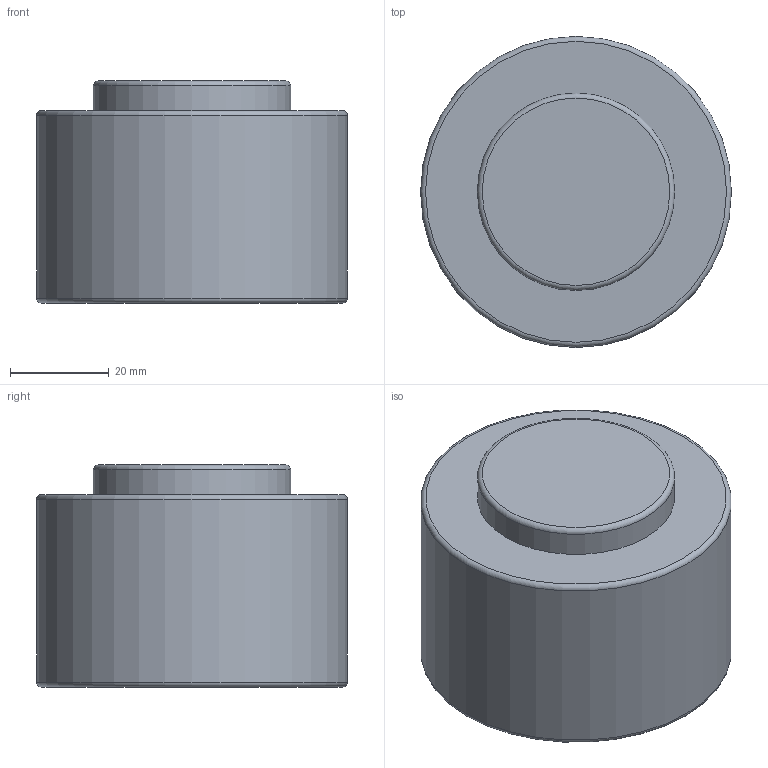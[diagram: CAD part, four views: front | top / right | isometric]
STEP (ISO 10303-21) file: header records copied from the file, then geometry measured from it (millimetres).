
FILE_DESCRIPTION(/* description */ (''),/* implementation_level */ '2;1');
FILE_NAME(/* name */ 'NV5-SMLX.63x5.stp',/* time_stamp */ '2018-08-31T16:08:31+02:00',/* author */ (''),/* organization */ (''),/* preprocessor_version */ 'ST-DEVELOPER v16',/* originating_system */ 'SIEMENS PLM Software NX 10.0',/* authorisation */ '');
FILE_SCHEMA (('AUTOMOTIVE_DESIGN { 1 0 10303 214 3 1 1 1 }'));
Length unit declared in the file: millimetre
Products named in the file (1): NV5-SMLX.63x5
Bounding box: 63 x 63 x 45 mm (x, y, z)
Volume: 127818.2 mm3; surface area: 15025.7 mm2
Topology: 1 solids, 1 shells, 10 faces, 18 edges, 11 vertices
Faces by surface type: cylinder 3, torus 3, plane 3, cone 1
Full cylindrical faces by diameter (mm): 8.5 x1, 40 x1, 63 x1
Entity records: 222 total; most frequent: DIRECTION 40, CARTESIAN_POINT 30, AXIS2_PLACEMENT_3D 20, FACE_BOUND 18, EDGE_LOOP 18, ORIENTED_EDGE 18, ADVANCED_FACE 10, VERTEX_POINT 10
